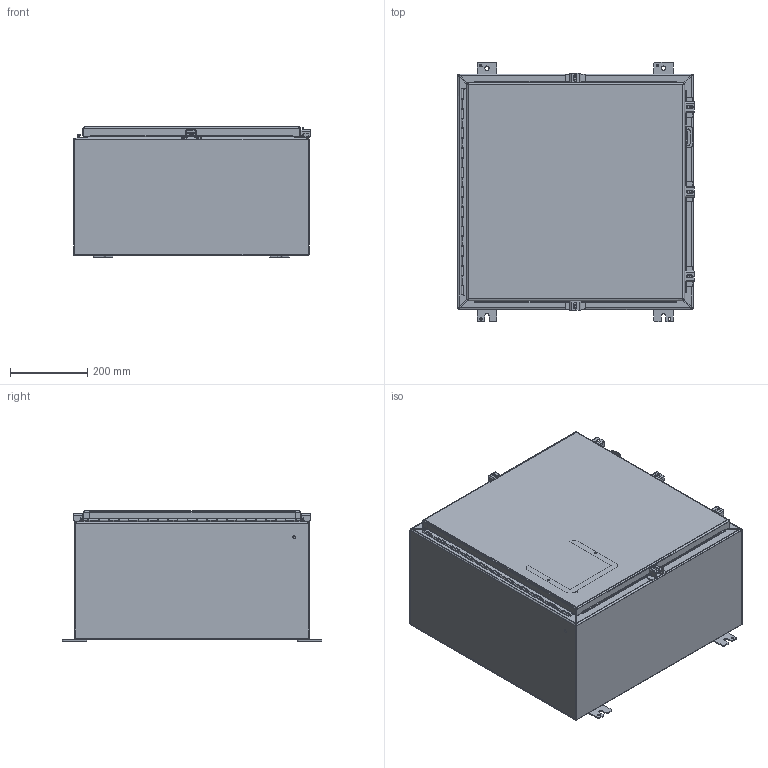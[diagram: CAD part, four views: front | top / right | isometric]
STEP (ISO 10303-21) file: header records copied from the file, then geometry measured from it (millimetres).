
FILE_DESCRIPTION (( 'STEP AP203' ), '1' );
FILE_NAME ('a24h2412sslp.STEP', '2010-02-22T15:07:58', ( 'Hoffman User' ), ( 'Hoffman Enclosures' ), 'SwSTEP 2.0', 'SolidWorks 2009', '' );
FILE_SCHEMA (( 'CONFIG_CONTROL_DESIGN' ));
Length unit declared in the file: inch
Products named in the file (21): 22300002_brkt_clamp1; 22a18_hinge_body_21in; end_24x12; 8756004X_clamp1; assy_clamp_Side1; 99401225_99401225; 22a18_hinge_door_21in; Hasp_22a07; a24h2412sslp; wmt_body_24x24x12; Body_24x24x12; 22132004; 22110002; 22112003_22112003; assy_clamp_End1; stud_m6x16_99401226; wmt_door_24x24; Door_24x24; 11158311_CD Stud M4; 242352001; Panel_Nema_A24P24
Assembly tree (33 placements, depth 4):
  a24h2412sslp
    wmt_body_24x24x12
      22110002  x4
      22112003_22112003  x4
      22a18_hinge_body_21in
      assy_clamp_Side1  x3
        8756004X_clamp1
        22300002_brkt_clamp1
      22132004
      end_24x12  x2
      assy_clamp_End1  x2
        8756004X_clamp1
        22300002_brkt_clamp1
      stud_m6x16_99401226
      Body_24x24x12
    wmt_door_24x24
      99401225_99401225
      Door_24x24
      11158311_CD Stud M4  x2
      Hasp_22a07
      242352001
      22a18_hinge_door_21in
    Panel_Nema_A24P24
Bounding box: 613.28 x 672.85 x 336.61 mm (x, y, z)
Volume: 3747248.7 mm3; surface area: 4022402.8 mm2
Topology: 32 solids, 32 shells, 1472 faces, 3777 edges, 2401 vertices
Faces by surface type: plane 743, cylinder 475, bspline 172, torus 62, cone 20
Entity records: 29679 total; most frequent: CARTESIAN_POINT 7413, ORIENTED_EDGE 4160, DIRECTION 4033, EDGE_CURVE 2080, VECTOR 1383, LINE 1383, AXIS2_PLACEMENT_3D 1325, VERTEX_POINT 1309
